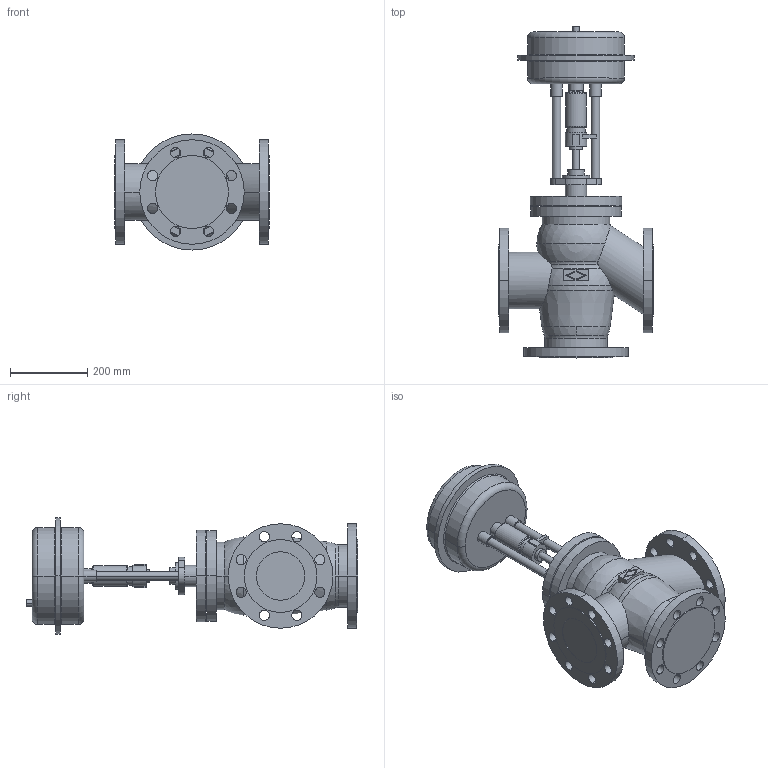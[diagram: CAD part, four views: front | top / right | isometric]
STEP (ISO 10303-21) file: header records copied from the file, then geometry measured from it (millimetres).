
FILE_DESCRIPTION(('OneSpaceDesigner STEP Export'),'2;1');
FILE_NAME('c000000689.stp','2006-09-19T10:14:04',(''),(''),'OneSpace Designer STEP processor for AP214 (Solid Model)','OneSpace Designer 13.20A 18-Aug-2005 (C) CoCreate Software GmbH','');
FILE_SCHEMA(('AUTOMOTIVE_DESIGN { 1 0 10303 214 1 1 1 1 }'));
Length unit declared in the file: millimetre
Products named in the file (2): 1; 2
Bounding box: 400 x 857.6 x 300 mm (x, y, z)
Volume: 26253920.8 mm3; surface area: 1111823.6 mm2
Topology: 2 solids, 2 shells, 227 faces, 569 edges, 368 vertices
Faces by surface type: cylinder 116, plane 73, torus 24, sphere 8, cone 6
Entity records: 6154 total; most frequent: CARTESIAN_POINT 1251, ORIENTED_EDGE 1122, DIRECTION 868, EDGE_CURVE 561, VERTEX_POINT 368, AXIS2_PLACEMENT_3D 326, EDGE_LOOP 305, FACE_OUTER_BOUND 227
